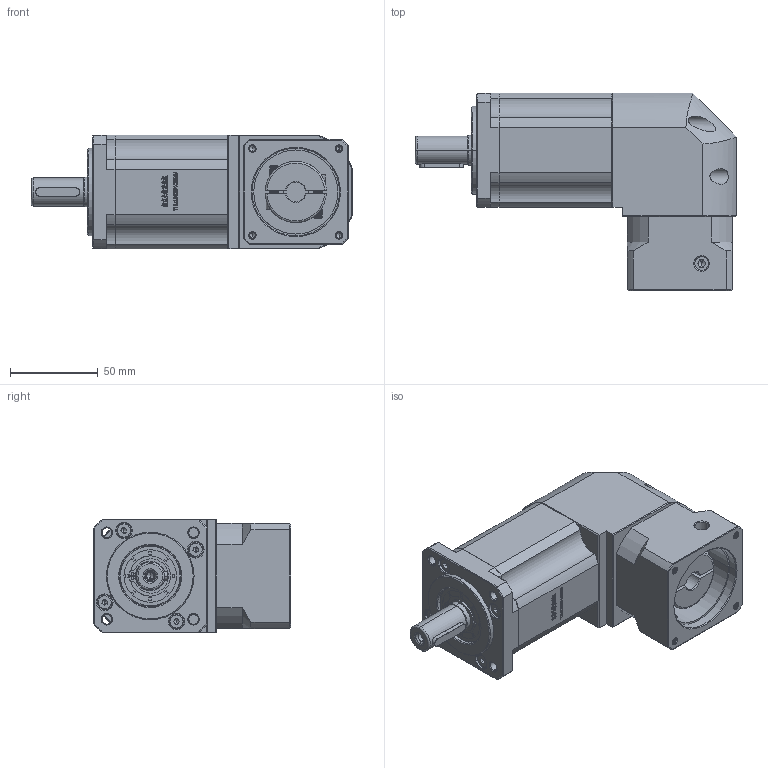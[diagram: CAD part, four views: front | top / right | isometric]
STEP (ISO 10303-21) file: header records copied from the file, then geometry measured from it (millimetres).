
FILE_DESCRIPTION (( 'STEP AP214' ), '1' );
FILE_NAME ('ZBR60-D16-L3-11-50-70-M4.STEP', '2022-04-19T08:25:56', ( '' ), ( 'Microsoft' ), 'SwSTEP 2.0', 'SolidWorks 2016', '' );
FILE_SCHEMA (( 'AUTOMOTIVE_DESIGN' ));
Length unit declared in the file: millimetre
Products named in the file (1): ZBR60-D16-L3-11-50-70-M4
Bounding box: 183.5 x 112.7 x 65 mm (x, y, z)
Volume: 648531 mm3; surface area: 85590.8 mm2
Topology: 5 solids, 5 shells, 2835 faces, 7689 edges, 4990 vertices
Faces by surface type: plane 1472, bspline 579, cylinder 424, cone 328, torus 32
Entity records: 152747 total; most frequent: CARTESIAN_POINT 54417, ORIENTED_EDGE 15318, DIRECTION 11687, EDGE_CURVE 7659, LINE 5039, VECTOR 5039, VERTEX_POINT 4990, AXIS2_PLACEMENT_3D 3324
